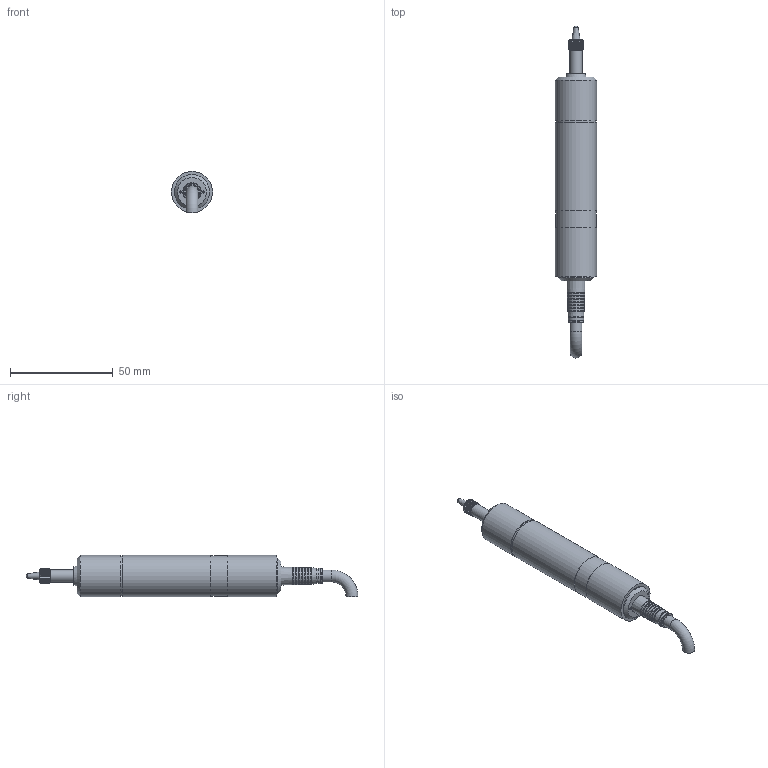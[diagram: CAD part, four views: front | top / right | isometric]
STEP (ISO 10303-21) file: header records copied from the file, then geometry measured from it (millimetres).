
FILE_DESCRIPTION( ( 'STEP AP203' ), '1' );
FILE_NAME( 'N:/Engineering/CAD_Solid/Magnescale/DG-Serie/DK 10 NR5/Kunden 3D/DK 10 NR5.stp', '2010-08-04T14:46:55', ( ' ' ), ( ' ' ), 'XStep 1.0', ' ', ' ' );
FILE_SCHEMA( ( 'CONFIG_CONTROL_DESIGN) ( )' ) );
Length unit declared in the file: metre
Products named in the file (7): Assem1; 1; 2; 3; 4; 5; 6
Bounding box: 20 x 161.18 x 20 mm (x, y, z)
Surface area: 19221.9 mm2 (no closed solid volume)
Topology: 0 solids, 398 shells, 398 faces, 1906 edges, 1822 vertices
Faces by surface type: plane 164, cone 134, cylinder 96, torus 2, bspline 2
Full cylindrical faces by diameter (mm): 1 x4, 1.5 x4, 5.8 x2, 6 x2, 6.567 x2, 6.667 x2, 6.867 x2, 6.967 x2, 7.067 x2, 7.167 x2, 7.267 x2, 7.367 x2, 7.434 x2, 9 x2, 13.376 x2, 17 x2, 19.4 x2, 19.7 x2, 20 x6
Entity records: 9827 total; most frequent: CARTESIAN_POINT 2625, DIRECTION 1452, ORIENTED_EDGE 896, EDGE_CURVE 896, VERTEX_POINT 896, AXIS2_PLACEMENT_3D 551, LINE 350, VECTOR 350
